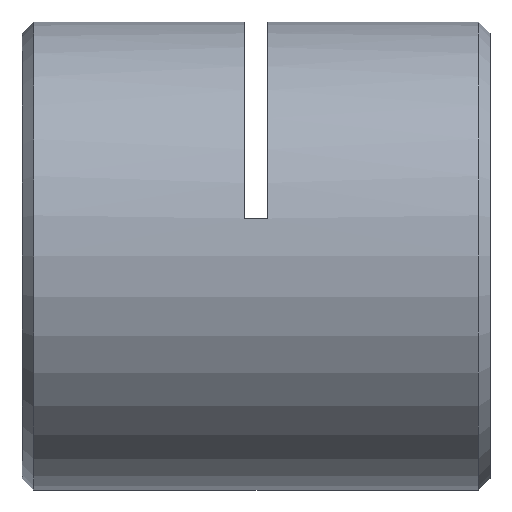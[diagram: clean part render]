
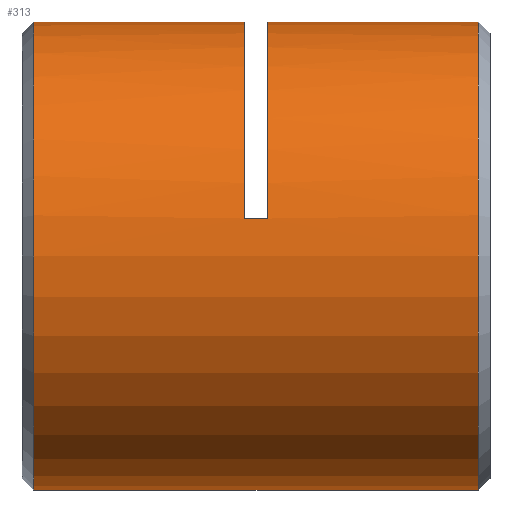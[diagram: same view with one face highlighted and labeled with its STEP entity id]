
A CAD part, left-side view. The second image highlights one B-rep face of the part: STEP entity #313.
In plain terms, the highlighted cylindrical face has radius 8 mm (diameter 16 mm), a partial arc.
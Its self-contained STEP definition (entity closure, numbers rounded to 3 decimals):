
#9 = CARTESIAN_POINT ( 'NONE',  ( -7.897, 7.85, 1.28 ) ) ;
#32 = DIRECTION ( 'NONE',  ( 0., 1., 0. ) ) ;
#65 = VERTEX_POINT ( 'NONE', #9 ) ;
#224 = EDGE_LOOP ( 'NONE', ( #3938, #2150, #972, #1348, #579, #3657, #2830, #2521 ) ) ;
#296 = DIRECTION ( 'NONE',  ( 0., -1., 0. ) ) ;
#313 = ADVANCED_FACE ( 'NONE', ( #2383 ), #1097, .T. ) ;
#323 = LINE ( 'NONE', #1170, #1823 ) ;
#340 = AXIS2_PLACEMENT_3D ( 'NONE', #3055, #296, #3610 ) ;
#375 = EDGE_CURVE ( 'NONE', #2319, #767, #323, .T. ) ;
#398 = LINE ( 'NONE', #3531, #2610 ) ;
#431 = CARTESIAN_POINT ( 'NONE',  ( 0., 0.65, 0. ) ) ;
#579 = ORIENTED_EDGE ( 'NONE', *, *, #2671, .T. ) ;
#680 = DIRECTION ( 'NONE',  ( 0., 0., 1. ) ) ;
#767 = VERTEX_POINT ( 'NONE', #2573 ) ;
#880 = DIRECTION ( 'NONE',  ( 0., 0., 1. ) ) ;
#883 = CIRCLE ( 'NONE', #2176, 8. ) ;
#965 = DIRECTION ( 'NONE',  ( 0., 0., 1. ) ) ;
#972 = ORIENTED_EDGE ( 'NONE', *, *, #2940, .T. ) ;
#1097 = CYLINDRICAL_SURFACE ( 'NONE', #3732, 8. ) ;
#1123 = CARTESIAN_POINT ( 'NONE',  ( -7.897, 8.25, 1.28 ) ) ;
#1170 = CARTESIAN_POINT ( 'NONE',  ( 0., 0.25, -8. ) ) ;
#1206 = VERTEX_POINT ( 'NONE', #1667 ) ;
#1286 = CARTESIAN_POINT ( 'NONE',  ( 0., 0.65, 8. ) ) ;
#1348 = ORIENTED_EDGE ( 'NONE', *, *, #1581, .F. ) ;
#1369 = EDGE_CURVE ( 'NONE', #1206, #2541, #398, .T. ) ;
#1581 = EDGE_CURVE ( 'NONE', #65, #1840, #3819, .T. ) ;
#1667 = CARTESIAN_POINT ( 'NONE',  ( 0., 8.65, 8. ) ) ;
#1771 = DIRECTION ( 'NONE',  ( 0., 1., 0. ) ) ;
#1780 = CARTESIAN_POINT ( 'NONE',  ( 0., 0.25, 0. ) ) ;
#1823 = VECTOR ( 'NONE', #3899, 1000. ) ;
#1840 = VERTEX_POINT ( 'NONE', #2898 ) ;
#1918 = AXIS2_PLACEMENT_3D ( 'NONE', #3697, #32, #965 ) ;
#1933 = CIRCLE ( 'NONE', #3060, 8. ) ;
#1989 = VECTOR ( 'NONE', #3717, 1000. ) ;
#1991 = EDGE_CURVE ( 'NONE', #2541, #767, #2282, .T. ) ;
#2039 = CARTESIAN_POINT ( 'NONE',  ( -7.897, 8.65, 1.28 ) ) ;
#2150 = ORIENTED_EDGE ( 'NONE', *, *, #3641, .T. ) ;
#2176 = AXIS2_PLACEMENT_3D ( 'NONE', #2403, #3008, #3934 ) ;
#2282 = CIRCLE ( 'NONE', #340, 8. ) ;
#2319 = VERTEX_POINT ( 'NONE', #3508 ) ;
#2383 = FACE_OUTER_BOUND ( 'NONE', #224, .T. ) ;
#2403 = CARTESIAN_POINT ( 'NONE',  ( 0., 8.65, 0. ) ) ;
#2521 = ORIENTED_EDGE ( 'NONE', *, *, #1991, .T. ) ;
#2541 = VERTEX_POINT ( 'NONE', #3342 ) ;
#2573 = CARTESIAN_POINT ( 'NONE',  ( 0., 15.85, -8. ) ) ;
#2587 = DIRECTION ( 'NONE',  ( 0., 1., 0. ) ) ;
#2610 = VECTOR ( 'NONE', #2587, 1000. ) ;
#2645 = VECTOR ( 'NONE', #3894, 1000. ) ;
#2671 = EDGE_CURVE ( 'NONE', #65, #3891, #3381, .T. ) ;
#2802 = CARTESIAN_POINT ( 'NONE',  ( 0., 0.25, 8. ) ) ;
#2830 = ORIENTED_EDGE ( 'NONE', *, *, #1369, .T. ) ;
#2864 = VERTEX_POINT ( 'NONE', #1286 ) ;
#2898 = CARTESIAN_POINT ( 'NONE',  ( 0., 7.85, 8. ) ) ;
#2940 = EDGE_CURVE ( 'NONE', #2864, #1840, #3141, .T. ) ;
#3008 = DIRECTION ( 'NONE',  ( 0., 1., 0. ) ) ;
#3055 = CARTESIAN_POINT ( 'NONE',  ( 0., 15.85, 0. ) ) ;
#3060 = AXIS2_PLACEMENT_3D ( 'NONE', #431, #3416, #680 ) ;
#3141 = LINE ( 'NONE', #2802, #1989 ) ;
#3342 = CARTESIAN_POINT ( 'NONE',  ( 0., 15.85, 8. ) ) ;
#3381 = LINE ( 'NONE', #1123, #2645 ) ;
#3416 = DIRECTION ( 'NONE',  ( 0., 1., 0. ) ) ;
#3498 = EDGE_CURVE ( 'NONE', #3891, #1206, #883, .T. ) ;
#3508 = CARTESIAN_POINT ( 'NONE',  ( 0., 0.65, -8. ) ) ;
#3531 = CARTESIAN_POINT ( 'NONE',  ( 0., 0.25, 8. ) ) ;
#3610 = DIRECTION ( 'NONE',  ( 0., 0., -1. ) ) ;
#3641 = EDGE_CURVE ( 'NONE', #2319, #2864, #1933, .T. ) ;
#3657 = ORIENTED_EDGE ( 'NONE', *, *, #3498, .T. ) ;
#3697 = CARTESIAN_POINT ( 'NONE',  ( 0., 7.85, 0. ) ) ;
#3717 = DIRECTION ( 'NONE',  ( 0., 1., 0. ) ) ;
#3732 = AXIS2_PLACEMENT_3D ( 'NONE', #1780, #1771, #880 ) ;
#3819 = CIRCLE ( 'NONE', #1918, 8. ) ;
#3891 = VERTEX_POINT ( 'NONE', #2039 ) ;
#3894 = DIRECTION ( 'NONE',  ( 0., 1., 0. ) ) ;
#3899 = DIRECTION ( 'NONE',  ( 0., 1., 0. ) ) ;
#3934 = DIRECTION ( 'NONE',  ( 0., 0., 1. ) ) ;
#3938 = ORIENTED_EDGE ( 'NONE', *, *, #375, .F. ) ;
